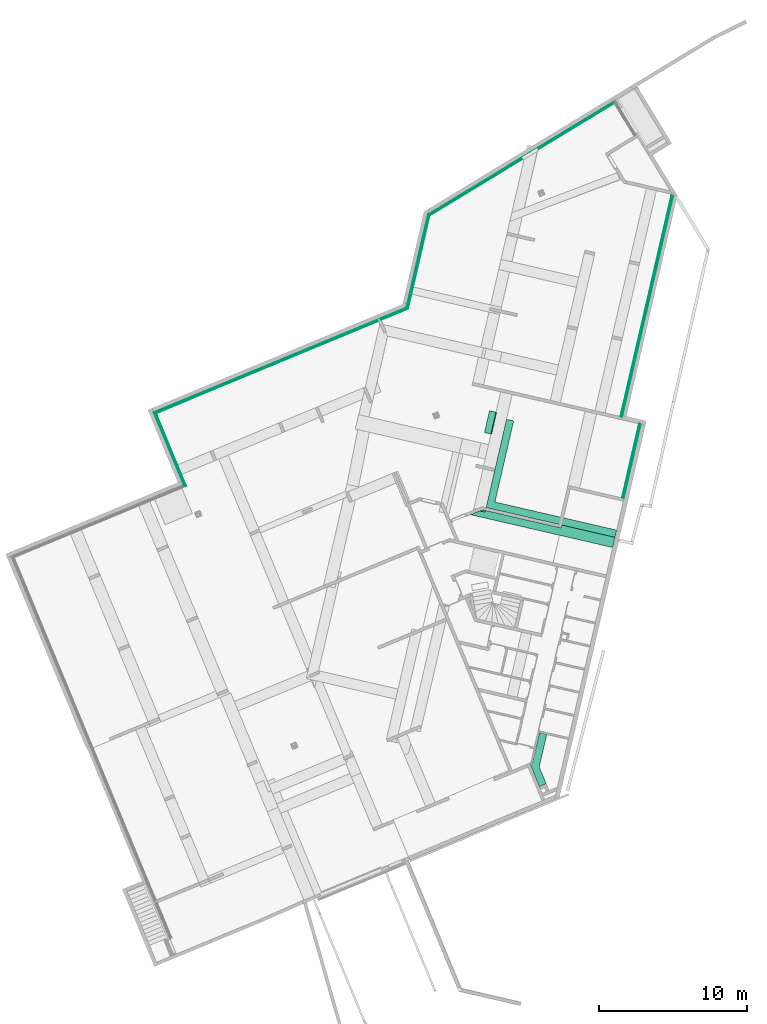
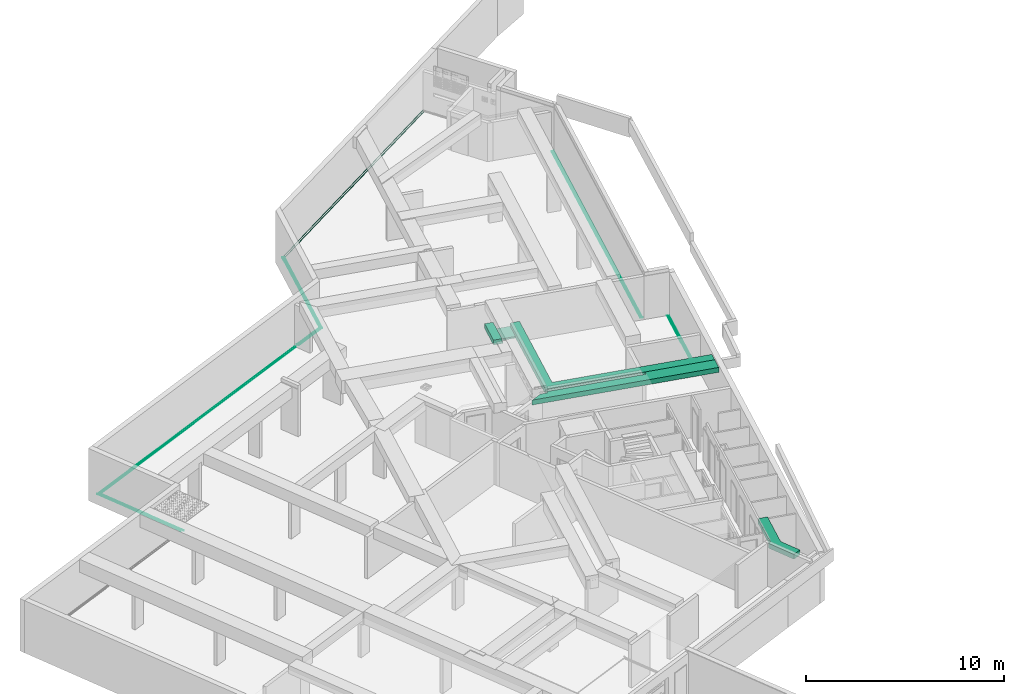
# One storey, part 17 of 20: 7 flow terminals, 4 distribution chamber elements.
"""IFC2X3 building model written with IfcOpenShell, lengths in metres."""

from ifc_helpers import new_model, entity, si_unit, converted_unit, derived_unit, money_unit, direction, frame, origin_with_axes, place, context, subcontext, project, spatial, faceted_brep, material, type_object, element, save


model = new_model("IFC2X3")

# Units and contexts
model_context = context("Model", 3, precision=1e-05, world=origin_with_axes(), true_north=direction((0.0, 1.0)))
body_context = subcontext(model_context, "Body", "Model", "MODEL_VIEW")
ifc_project = project(units=[si_unit("LENGTHUNIT", "METRE"), si_unit("AREAUNIT", "SQUARE_METRE"), si_unit("VOLUMEUNIT", "CUBIC_METRE"), converted_unit("PLANEANGLEUNIT", "DEGREE", entity("IfcPlaneAngleMeasure", 0.0174532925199), si_unit("PLANEANGLEUNIT", "RADIAN"), dimensions=[0, 0, 0, 0, 0, 0, 0]), si_unit("SOLIDANGLEUNIT", "STERADIAN"), money_unit("EUR"), converted_unit("TIMEUNIT", "Year", entity("IfcTimeMeasure", 31556926.0), si_unit("TIMEUNIT", "SECOND"), dimensions=[0, 0, 1, 0, 0, 0, 0]), si_unit("MASSUNIT", "GRAM", prefix="KILO"), si_unit("THERMODYNAMICTEMPERATUREUNIT", "DEGREE_CELSIUS"), si_unit("LUMINOUSINTENSITYUNIT", "LUMEN"), si_unit("ENERGYUNIT", "JOULE", prefix="MEGA"), derived_unit("THERMALCONDUCTANCEUNIT", [(si_unit("POWERUNIT", "WATT"), 1), (si_unit("LENGTHUNIT", "METRE"), -1), (si_unit("THERMODYNAMICTEMPERATUREUNIT", "KELVIN"), -1)]), derived_unit("SPECIFICHEATCAPACITYUNIT", [(si_unit("ENERGYUNIT", "JOULE"), 1), (si_unit("MASSUNIT", "GRAM", prefix="KILO"), -1), (si_unit("THERMODYNAMICTEMPERATUREUNIT", "KELVIN"), -1)]), derived_unit("MASSDENSITYUNIT", [(si_unit("MASSUNIT", "GRAM", prefix="KILO"), 1), (si_unit("VOLUMEUNIT", "CUBIC_METRE"), -1)])], contexts=[model_context])

# Site, building, storey
site_placement = place(None, origin_with_axes())
site = spatial("IfcSite", under=ifc_project, at=site_placement, Name="Site", CompositionType="ELEMENT")
building_placement = place(site_placement, origin_with_axes())
building = spatial("IfcBuilding", under=site, at=building_placement, Name="Bâtiment", CompositionType="ELEMENT")
storey_placement = place(building_placement, frame((0.0, 0.0, -2.9), z_axis=(0.0, 0.0, 1.0), x_axis=(1.0, 0.0, 0.0)))
storey = spatial("IfcBuildingStorey", under=building, at=storey_placement, Name="Sous-sol", CompositionType="ELEMENT", Elevation=-2.9)

# Distribution chamber elements
ifc_material_1 = material(Name="Finition int - Plaque de plâtre")
distribution_chamber_element_type_1 = type_object("IfcDistributionChamberElementType", Name="Finition int - Plaque de plâtre 300", PredefinedType="FORMEDDUCT")
distribution_chamber_element_1_placement = place(storey_placement, frame((-4.39292395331, -20.3984826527, 2.5), z_axis=(0.0, 0.0, 1.0), x_axis=(1.0, 0.0, 0.0)))
element("IfcDistributionChamberElement", 1, at=distribution_chamber_element_1_placement, inside=storey, type_object=distribution_chamber_element_type_1, material=ifc_material_1, Name="Dalle_004", ObjectType="FORMEDDUCT", context=body_context, shape_type="Brep", body=[
    faceted_brep([(0.0, 0.0, 0.0), (0.0, 0.0, -0.3), (-0.469890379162, 1.13292695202, -0.3), (-0.469890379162, 1.13292695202, 0.0), (-0.461850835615, -0.191556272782, 0.0), (-0.461850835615, -0.191556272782, -0.3), (-1.08057759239, 1.30022191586, -0.3), (-0.934913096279, 1.36063741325, -0.3), (-0.45129550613, 3.45614978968, -0.3), (0.0401064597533, 3.34274046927, -0.3), (0.0401064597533, 3.34274046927, 0.0), (-0.45129550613, 3.45614978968, 0.0), (-0.934913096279, 1.36063741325, 0.0), (-1.08057759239, 1.30022191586, 0.0)], [[[0, 1, 2, 3]], [[4, 5, 1, 0]], [[2, 1, 5, 6, 7, 8, 9]], [[3, 2, 9, 10]], [[4, 0, 3, 10, 11, 12, 13]], [[13, 6, 5, 4]], [[12, 7, 6, 13]], [[11, 8, 7, 12]], [[10, 9, 8, 11]]]),
])
distribution_chamber_element_2_placement = place(storey_placement, frame((-8.2214041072, 4.81137084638, 2.5), z_axis=(0.0, 0.0, 1.0), x_axis=(1.0, 0.0, 0.0)))
element("IfcDistributionChamberElement", 2, at=distribution_chamber_element_2_placement, inside=storey, type_object=distribution_chamber_element_type_1, material=ifc_material_1, Name="Dalle_004", ObjectType="FORMEDDUCT", context=body_context, shape_type="Brep", body=[
    faceted_brep([(0.0, 0.0, 0.0), (0.435172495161, -0.100432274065, 0.0), (0.435172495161, -0.100432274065, -0.2), (0.487193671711, -0.112438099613, -0.2), (0.487193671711, -0.112438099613, -0.3), (0.0, 0.0, -0.3), (-0.342381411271, -1.4835367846, 0.0), (0.0927910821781, -1.58396905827, 0.0), (0.0927910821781, -1.58396905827, -0.2), (0.144812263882, -1.59597488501, -0.2), (0.144812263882, -1.59597488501, -0.3), (-0.342381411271, -1.4835367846, -0.3)], [[[0, 1, 2, 3, 4, 5]], [[6, 7, 1, 0]], [[8, 2, 1, 7]], [[8, 9, 3, 2]], [[4, 3, 9, 10]], [[10, 11, 5, 4]], [[6, 0, 5, 11]], [[9, 8, 7, 6, 11, 10]]]),
])
ifc_material_2 = material(Name="Finition int - Plaque type PROMAT 5cm")
distribution_chamber_element_type_2 = type_object("IfcDistributionChamberElementType", Name="Finition int - Plaque type PROMAT 5cm 300", PredefinedType="FORMEDDUCT")
distribution_chamber_element_3_placement = place(storey_placement, frame((-6.58934665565, 4.1160759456, 2.5), z_axis=(0.0, 0.0, 1.0), x_axis=(1.0, 0.0, 0.0)))
element("IfcDistributionChamberElement", 3, at=distribution_chamber_element_3_placement, inside=storey, type_object=distribution_chamber_element_type_2, material=ifc_material_2, Name="Dalle_004", ObjectType="FORMEDDUCT", context=body_context, shape_type="Brep", body=[
    faceted_brep([(-1.21468236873, 0.280333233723, -0.3), (-1.21468236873, 0.280333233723, -0.2), (-0.487193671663, 0.112438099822, -0.2), (-0.487193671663, 0.112438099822, 0.0), (0.0, 0.0, 0.0), (0.0, 0.0, -0.3), (-1.4278118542, -0.643155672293, -0.3), (-1.4278118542, -0.643155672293, -0.2), (-0.700323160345, -0.811050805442, -0.2), (-0.700323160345, -0.811050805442, 0.0), (-1.86431095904, -5.85460356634, 0.0), (6.84278004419, -7.86408937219, 0.0), (6.95521814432, -7.37689569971, 0.0), (-1.2646791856, -5.47984799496, 0.0), (-1.2646791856, -5.47984799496, -0.3), (3.16749339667, -6.50273702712, -0.3), (3.0550552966, -6.98993069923, -0.3), (-1.86431095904, -5.85460356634, -0.3), (-0.700323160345, -0.811050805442, -0.3), (3.05505529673, -6.98993069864, -0.13), (3.2499327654, -7.03490593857, -0.13), (3.24993276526, -7.03490593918, -0.3), (6.84278004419, -7.86408937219, -0.3), (6.95521814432, -7.37689569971, -0.3), (3.36237086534, -6.54771226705, -0.3), (3.36237086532, -6.54771226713, -0.13), (3.16749339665, -6.5027370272, -0.13)], [[[0, 1, 2, 3, 4, 5]], [[6, 7, 1, 0]], [[8, 2, 1, 7]], [[8, 9, 3, 2]], [[4, 3, 9, 10, 11, 12, 13]], [[5, 4, 13, 14]], [[5, 14, 15, 16, 17, 18, 6, 0]], [[18, 8, 7, 6]], [[10, 9, 8, 18, 17]], [[16, 19, 20, 21, 22, 11, 10, 17]], [[23, 12, 11, 22]], [[24, 25, 26, 15, 14, 13, 12, 23]], [[19, 16, 15, 26]], [[20, 19, 26, 25]], [[21, 20, 25, 24]], [[23, 22, 21, 24]]]),
])
distribution_chamber_element_4_placement = place(storey_placement, frame((-9.50978215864, -2.22002527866, 2.5), z_axis=(0.0, 0.0, 1.0), x_axis=(1.0, 0.0, 0.0)))
element("IfcDistributionChamberElement", 4, at=distribution_chamber_element_4_placement, inside=storey, type_object=distribution_chamber_element_type_2, material=ifc_material_2, Name="Dalle_004", ObjectType="FORMEDDUCT", context=body_context, shape_type="Brep", body=[
    faceted_brep([(0.805490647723, 0.334083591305, -0.3), (0.805490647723, 0.334083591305, -0.2), (1.01114929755, 0.286620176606, -0.2), (1.0111493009, 0.28662019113, 0.0), (6.12539302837, -0.893682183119, 0.0), (6.12539302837, -0.893682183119, -0.3), (0.618217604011, 0.256410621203, 0.0), (0.618217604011, 0.256410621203, -0.2), (0.0, 0.0, -0.3), (0.0, 0.0, 0.0), (0.984659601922, 0.171840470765, -0.2), (0.984659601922, 0.171840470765, 0.0), (9.60430397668, -2.21655111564, 0.0), (9.76321554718, -1.52798814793, 0.0), (6.17036826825, -0.698804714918, 0.0), (6.17036826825, -0.698804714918, -0.3), (9.76321554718, -1.52798814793, -0.3), (9.60430397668, -2.21655111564, -0.3)], [[[0, 1, 2, 3, 4, 5]], [[6, 7, 1, 0, 8, 9]], [[10, 2, 1, 7]], [[10, 11, 3, 2]], [[3, 11, 6, 9, 12, 13, 14, 4]], [[4, 14, 15, 5]], [[16, 17, 8, 0, 5, 15]], [[7, 6, 11, 10]], [[12, 9, 8, 17]], [[13, 12, 17, 16]], [[14, 13, 16, 15]]]),
])

# Flow terminals
ifc_material_3 = material(Name="Finition sol - Carrelage")
waste_terminal_type = type_object("IfcWasteTerminalType", Name="Cunette 115 x 60", PredefinedType="GULLYSUMP")
flow_terminal_1_placement = place(storey_placement, frame((-30.8979461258, 4.68951935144, -0.04), z_axis=(0.0, 0.0, 1.0), x_axis=(0.383113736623, -0.923701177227, 0.0)))
element("IfcFlowTerminal", 5, at=flow_terminal_1_placement, inside=storey, type_object=waste_terminal_type, material=ifc_material_3, Name="M_Ext-011", context=body_context, shape_type="Brep", body=[
    faceted_brep([(5.32656906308, 0.00500000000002, 0.0408658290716), (5.32714759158, 0.00500000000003, 0.04), (5.32714760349, 0.0143845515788, 0.04), (5.32656907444, 0.0138060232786, 0.0408658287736), (0.0138060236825, 0.00500000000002, 0.0408658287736), (0.0143845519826, 0.00500000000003, 0.04), (5.32276303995, 0.00500000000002, 0.0599999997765), (0.0100000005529, 0.00500000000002, 0.0599999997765), (0.0143845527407, 0.0143845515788, 0.04), (0.0138060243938, 0.0138060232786, 0.0408658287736), (5.3227630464, 0.010000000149, 0.0599999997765), (0.0100000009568, 0.010000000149, 0.0599999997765)], [[[0, 1, 2, 3]], [[4, 5, 1, 0, 6, 7]], [[5, 8, 2, 1]], [[3, 2, 8, 9]], [[6, 0, 3, 10]], [[9, 8, 5, 4]], [[6, 10, 11, 7]], [[7, 11, 9, 4]], [[10, 3, 9, 11]]]),
    faceted_brep([(5.43276317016, 0.106193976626, 0.0408658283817), (5.43276316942, 0.105615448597, 0.04), (5.43276318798, 0.12, 0.04), (5.43276318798, 0.12, 0.0599999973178), (5.43276317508, 0.11, 0.0599999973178), (0.120000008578, 0.106193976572, 0.0408658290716), (0.120000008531, 0.105615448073, 0.04), (0.120000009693, 0.12, 0.04), (0.120000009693, 0.12, 0.0600000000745), (0.120000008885, 0.109999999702, 0.0600000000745)], [[[0, 1, 2, 3, 4]], [[5, 6, 1, 0]], [[6, 7, 2, 1]], [[3, 2, 7, 8]], [[4, 3, 8, 9]], [[0, 4, 9, 5]], [[8, 7, 6, 5, 9]]]),
])
flow_terminal_2_placement = place(storey_placement, frame((-13.8242442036, 11.7709959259, -0.04), z_axis=(0.0, 0.0, 1.0), x_axis=(0.224876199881, 0.974387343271, 0.0)))
element("IfcFlowTerminal", 6, at=flow_terminal_2_placement, inside=storey, type_object=waste_terminal_type, material=ifc_material_3, Name="M_Ext-010", context=body_context, shape_type="Brep", body=[
    faceted_brep([(-0.00710717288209, -0.0138060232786, 0.0408658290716), (-0.00740499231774, -0.0143845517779, 0.04), (6.4599697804, -0.0143845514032, 0.04), (6.45940548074, -0.0138060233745, 0.0408658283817), (-0.0133936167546, -0.00500000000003, 0.0408658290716), (-0.0141044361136, -0.00500000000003, 0.04), (6.45081603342, -0.00500000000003, 0.04), (6.45081603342, -0.00500000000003, 0.0599999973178), (6.45569306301, -0.01, 0.0599999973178), (-0.00514787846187, -0.010000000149, 0.0600000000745), (-0.00871727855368, -0.00500000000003, 0.0600000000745)], [[[0, 1, 2, 3]], [[4, 5, 1, 0]], [[5, 6, 2, 1]], [[3, 2, 6, 7, 8]], [[3, 8, 9, 0]], [[7, 6, 5, 4, 10]], [[10, 4, 0, 9]], [[8, 7, 10, 9]]]),
    faceted_brep([(-0.0617745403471, -0.12, 0.0599999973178), (-0.0617745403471, -0.12, 0.04), (6.42243485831, -0.12, 0.04), (6.42162669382, -0.12, 0.0408658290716), (6.41630994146, -0.12, 0.0599999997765), (-0.0716303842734, -0.106193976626, 0.0408658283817), (-0.0720433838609, -0.105615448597, 0.04), (-0.068913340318, -0.11, 0.0599999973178), (6.40840408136, -0.105615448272, 0.04), (6.40816021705, -0.106193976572, 0.0408658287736), (6.40655588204, -0.109999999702, 0.0599999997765)], [[[0, 1, 2, 3, 4]], [[5, 6, 1, 0, 7]], [[6, 8, 2, 1]], [[3, 2, 8, 9]], [[9, 10, 4, 3]], [[7, 0, 4, 10]], [[9, 8, 6, 5]], [[5, 7, 10, 9]]]),
])
flow_terminal_3_placement = place(storey_placement, frame((-15.5722995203, 11.0459737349, -0.04), z_axis=(0.0, 0.0, 1.0), x_axis=(0.923701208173, 0.383113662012, 0.0)))
element("IfcFlowTerminal", 7, at=flow_terminal_3_placement, inside=storey, type_object=waste_terminal_type, material=ifc_material_3, Name="M_Ext-010", context=body_context, shape_type="Brep", body=[
    faceted_brep([(1.88873420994, -0.0138060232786, 0.0408658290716), (1.88832121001, -0.0143845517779, 0.04), (1.89502065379, -0.00500000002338, 0.04), (1.89502065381, -0.00500000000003, 0.0600000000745), (1.89145125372, -0.010000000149, 0.0600000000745), (0.0, -0.0138060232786, 0.0408658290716), (0.0, -0.0143845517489, 0.04), (0.0, -0.00500000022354, 0.04), (0.0, -0.00500000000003, 0.0600000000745), (0.0, -0.010000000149, 0.0600000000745)], [[[0, 1, 2, 3, 4]], [[5, 6, 1, 0]], [[6, 7, 2, 1]], [[3, 2, 7, 8]], [[4, 3, 8, 9]], [[0, 4, 9, 5]], [[8, 7, 6, 5, 9]]]),
    faceted_brep([(1.93725823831, -0.12, 0.0408658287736), (1.9365474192, -0.12, 0.04), (1.94681626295, -0.105615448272, 0.04), (1.94711408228, -0.106193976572, 0.0408658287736), (0.0, -0.12, 0.0599999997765), (0.0, -0.119999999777, 0.04), (1.94193457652, -0.12, 0.0599999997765), (0.0, -0.105615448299, 0.04), (0.0, -0.106193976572, 0.0408658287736), (1.9490733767, -0.109999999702, 0.0599999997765), (0.0, -0.109999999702, 0.0599999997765)], [[[0, 1, 2, 3]], [[4, 5, 1, 0, 6]], [[5, 7, 2, 1]], [[3, 2, 7, 8]], [[6, 0, 3, 9]], [[8, 7, 5, 4, 10]], [[6, 9, 10, 4]], [[9, 3, 8, 10]]]),
])
flow_terminal_4_placement = place(storey_placement, frame((-12.3731352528, 18.0586430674, -0.04), z_axis=(0.0, 0.0, 1.0), x_axis=(0.854539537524, 0.519386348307, 0.0)))
element("IfcFlowTerminal", 8, at=flow_terminal_4_placement, inside=storey, type_object=waste_terminal_type, material=ifc_material_3, Name="M_Ext-011", context=body_context, shape_type="Brep", body=[
    faceted_brep([(0.0505830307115, -0.12, 0.0599999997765), (0.0505830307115, -0.12, 0.04), (14.6869300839, -0.12, 0.04), (14.6863515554, -0.12, 0.0408658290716), (14.6825455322, -0.12, 0.0599999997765), (0.0640495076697, -0.106193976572, 0.0408658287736), (0.0646138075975, -0.105615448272, 0.04), (0.0603370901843, -0.109999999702, 0.0599999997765), (14.6869300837, -0.105615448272, 0.04), (14.6863515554, -0.106193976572, 0.0408658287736), (14.6825455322, -0.109999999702, 0.0599999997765)], [[[0, 1, 2, 3, 4]], [[5, 6, 1, 0, 7]], [[6, 8, 2, 1]], [[3, 2, 8, 9]], [[9, 10, 4, 3]], [[4, 10, 7, 0]], [[9, 8, 6, 5]], [[10, 9, 5, 7]]]),
    faceted_brep([(0.00581958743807, -0.0138060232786, 0.0408658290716), (0.0060634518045, -0.0143845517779, 0.04), (14.7875455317, -0.0143845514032, 0.04), (14.7875455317, -0.0138060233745, 0.0408658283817), (0.0144090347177, -0.00500000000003, 0.0408658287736), (0.0152171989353, -0.00500000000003, 0.04), (14.7875455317, -0.00500000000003, 0.04), (14.7875455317, -0.00500000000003, 0.0599999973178), (14.7875455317, -0.01, 0.0599999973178), (0.00421525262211, -0.010000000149, 0.0600000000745), (0.0090922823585, -0.00500000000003, 0.0600000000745)], [[[0, 1, 2, 3]], [[4, 5, 1, 0]], [[5, 6, 2, 1]], [[3, 2, 6, 7, 8]], [[3, 8, 9, 0]], [[7, 6, 5, 4, 10]], [[0, 9, 10, 4]], [[8, 7, 10, 9]]]),
])
flow_terminal_5_placement = place(storey_placement, frame((-30.8979461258, 4.68951935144, -0.04), z_axis=(0.0, 0.0, 1.0), x_axis=(0.923701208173, 0.383113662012, 0.0)))
element("IfcFlowTerminal", 9, at=flow_terminal_5_placement, inside=storey, type_object=waste_terminal_type, material=ifc_material_3, Name="M_Ext-010", context=body_context, shape_type="Brep", body=[
    faceted_brep([(0.00500000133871, -0.0138060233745, 0.0408658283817), (0.00500000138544, -0.0143845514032, 0.04), (16.3901587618, -0.0143845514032, 0.04), (16.3901587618, -0.0138060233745, 0.0408658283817), (0.00500000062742, -0.00500000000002, 0.0599999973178), (0.00500000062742, -0.00500000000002, 0.04), (0.00500000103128, -0.01, 0.0599999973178), (16.3901587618, -0.00500000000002, 0.04), (16.3901587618, -0.00500000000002, 0.06), (16.3901587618, -0.01, 0.06)], [[[0, 1, 2, 3]], [[4, 5, 1, 0, 6]], [[5, 7, 2, 1]], [[3, 2, 7, 8, 9]], [[0, 3, 9, 6]], [[8, 7, 5, 4]], [[6, 9, 8, 4]]]),
    faceted_brep([(0.106193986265, -0.12, 0.0408658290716), (0.105615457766, -0.12, 0.04), (16.3901587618, -0.12, 0.04), (16.3901587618, -0.12, 0.06), (0.110000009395, -0.12, 0.0599999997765), (0.10619398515, -0.106193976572, 0.0408658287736), (0.105615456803, -0.105615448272, 0.04), (16.3901587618, -0.105615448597, 0.04), (16.3901587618, -0.106193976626, 0.0408658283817), (16.3901587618, -0.11, 0.06), (0.110000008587, -0.109999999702, 0.0599999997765)], [[[0, 1, 2, 3, 4]], [[5, 6, 1, 0]], [[6, 7, 2, 1]], [[3, 2, 7, 8, 9]], [[3, 9, 10, 4]], [[10, 5, 0, 4]], [[8, 7, 6, 5]], [[9, 8, 5, 10]]]),
])
flow_terminal_6_placement = place(storey_placement, frame((2.00402041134, 3.88173947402, -0.04), z_axis=(0.0, 0.0, 1.0), x_axis=(-0.224876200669, -0.974387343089, 0.0)))
element("IfcFlowTerminal", 10, at=flow_terminal_6_placement, inside=storey, type_object=waste_terminal_type, material=ifc_material_3, Name="M_Ext-012", context=body_context, shape_type="Brep", body=[
    faceted_brep([(5.11800001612, -0.106193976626, 0.0408658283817), (5.11800001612, -0.105615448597, 0.04), (0.0, -0.105615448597, 0.04), (0.0, -0.106193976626, 0.0408658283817), (5.11800001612, -0.12, 0.06), (5.11800001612, -0.12, 0.04), (5.11800001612, -0.11, 0.06), (0.0, -0.12, 0.04), (0.0, -0.12, 0.06), (0.0, -0.11, 0.06)], [[[0, 1, 2, 3]], [[4, 5, 1, 0, 6]], [[5, 7, 2, 1]], [[3, 2, 7, 8, 9]], [[3, 9, 6, 0]], [[8, 7, 5, 4]], [[9, 8, 4, 6]]]),
    faceted_brep([(5.11800001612, -0.00500000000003, 0.06), (5.11800001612, -0.00500000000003, 0.04), (0.0, -0.00500000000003, 0.04), (0.0, -0.00500000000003, 0.06), (5.11800001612, -0.0138060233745, 0.0408658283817), (5.11800001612, -0.0143845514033, 0.04), (5.11800001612, -0.01, 0.06), (0.0, -0.0143845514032, 0.04), (0.0, -0.0138060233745, 0.0408658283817), (0.0, -0.01, 0.06)], [[[0, 1, 2, 3]], [[4, 5, 1, 0, 6]], [[5, 7, 2, 1]], [[3, 2, 7, 8, 9]], [[3, 9, 6, 0]], [[8, 7, 5, 4]], [[9, 8, 4, 6]]]),
])
flow_terminal_7_placement = place(storey_placement, frame((4.18705246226, 19.2986676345, -0.04), z_axis=(0.0, 0.0, 1.0), x_axis=(-0.224876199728, -0.974387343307, 0.0)))
element("IfcFlowTerminal", 11, at=flow_terminal_7_placement, inside=storey, type_object=waste_terminal_type, material=ifc_material_3, Name="M_Ext-012", context=body_context, shape_type="Brep", body=[
    faceted_brep([(15.3029716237, -0.106193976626, 0.0408658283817), (15.3029716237, -0.105615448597, 0.04), (0.0, -0.105615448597, 0.04), (0.0, -0.106193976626, 0.0408658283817), (15.3029716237, -0.12, 0.06), (15.3029716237, -0.12, 0.04), (15.3029716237, -0.11, 0.06), (0.0, -0.12, 0.04), (0.0, -0.12, 0.06), (0.0, -0.11, 0.06)], [[[0, 1, 2, 3]], [[4, 5, 1, 0, 6]], [[5, 7, 2, 1]], [[3, 2, 7, 8, 9]], [[3, 9, 6, 0]], [[8, 7, 5, 4]], [[9, 8, 4, 6]]]),
    faceted_brep([(15.3029716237, -0.00500000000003, 0.06), (15.3029716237, -0.00500000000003, 0.04), (0.0, -0.00500000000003, 0.04), (0.0, -0.00500000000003, 0.06), (15.3029716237, -0.0138060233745, 0.0408658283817), (15.3029716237, -0.0143845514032, 0.04), (15.3029716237, -0.01, 0.06), (0.0, -0.0143845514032, 0.04), (0.0, -0.0138060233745, 0.0408658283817), (0.0, -0.01, 0.06)], [[[0, 1, 2, 3]], [[4, 5, 1, 0, 6]], [[5, 7, 2, 1]], [[3, 2, 7, 8, 9]], [[3, 9, 6, 0]], [[8, 7, 5, 4]], [[9, 8, 4, 6]]]),
])

save(model, "model.ifc")
